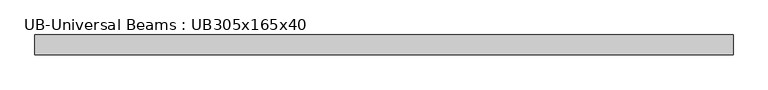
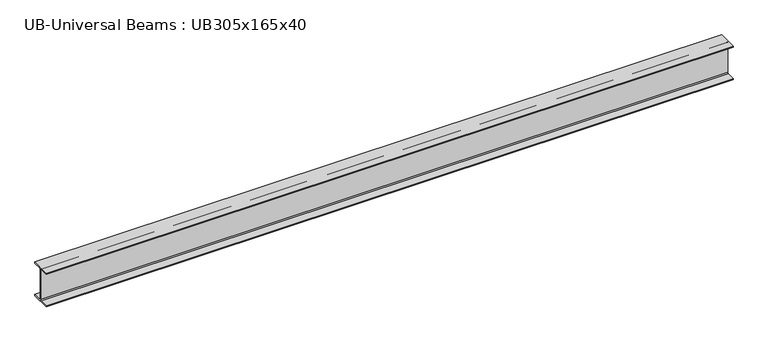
"""IFC4 building model written with IfcOpenShell, lengths in millimetres: beam geometry, UB-Universal Beams : UB305x165x40."""

from ifc_helpers import new_model, si_unit, point, frame, frame_2d, origin, place, context, project, spatial, polyline, circle_curve, trimmed, segment, composite_curve, outline, extrude, source, transform, mapped, element, save


def ub_universal_beams_ub305x165x40_9586376d(model_context):
    return source(origin(), model_context, "Body", "SweptSolid", [
        extrude(outline(composite_curve([segment(polyline([(82.5, -141.5), (82.5, -151.7), (-82.5, -151.7), (-82.5, -141.5), (-11.9, -141.5)]), True, "CONTINUOUS"), segment(trimmed(circle_curve(frame_2d((-11.9, -132.6)), 8.9), [point((-11.9, -141.5))], [point((-3.0, -132.6))], True, "CARTESIAN"), True, "CONTINUOUS"), segment(polyline([(-3.0, -132.6), (-3.0, 132.6)]), True, "CONTINUOUS"), segment(trimmed(circle_curve(frame_2d((-11.9, 132.6)), 8.9), [point((-3.0, 132.6))], [point((-11.9, 141.5))], True, "CARTESIAN"), True, "CONTINUOUS"), segment(polyline([(-11.9, 141.5), (-82.5, 141.5), (-82.5, 151.7), (82.5, 151.7), (82.5, 141.5), (11.9, 141.5)]), True, "CONTINUOUS"), segment(trimmed(circle_curve(frame_2d((11.9, 132.6)), 8.9), [point((11.9, 141.5))], [point((3.0, 132.6))], True, "CARTESIAN"), True, "CONTINUOUS"), segment(polyline([(3.0, 132.6), (3.0, -132.6)]), True, "CONTINUOUS"), segment(trimmed(circle_curve(frame_2d((11.9, -132.6)), 8.9), [point((3.0, -132.6))], [point((11.9, -141.5))], True, "CARTESIAN"), True, "CONTINUOUS"), segment(polyline([(11.9, -141.5), (82.5, -141.5)]), True, "CONTINUOUS")], self_intersect=False)), frame((-2916.85, 0.0, 0.0), z_axis=(1.0, 0.0, 0.0), x_axis=(0.0, 1.0, 0.0)), (0.0, 0.0, 1.0), 5846.0),
    ])


if __name__ == "__main__":
    model = new_model("IFC4")
    model_context = context("Model", 3, world=origin())
    ifc_project = project(units=[si_unit("LENGTHUNIT", "METRE", prefix="MILLI")], contexts=[model_context])
    site = spatial("IfcSite", under=ifc_project)
    building = spatial("IfcBuilding", under=site)
    placement = place(None, origin())
    ub_universal_beams_ub305x165x40_shape = ub_universal_beams_ub305x165x40_9586376d(model_context)
    element("IfcBeam", 1, ObjectType="UB-Universal Beams : UB305x165x40", at=placement, inside=building, context=model_context, shape_type="MappedRepresentation", body=[
        mapped(ub_universal_beams_ub305x165x40_shape, transform((0.0, 0.0, 0.0), x_axis=(1.0, 0.0, 0.0), y_axis=(0.0, 1.0, 0.0), z_axis=(0.0, 0.0, 1.0))),
    ])
    save(model, "model.ifc")
